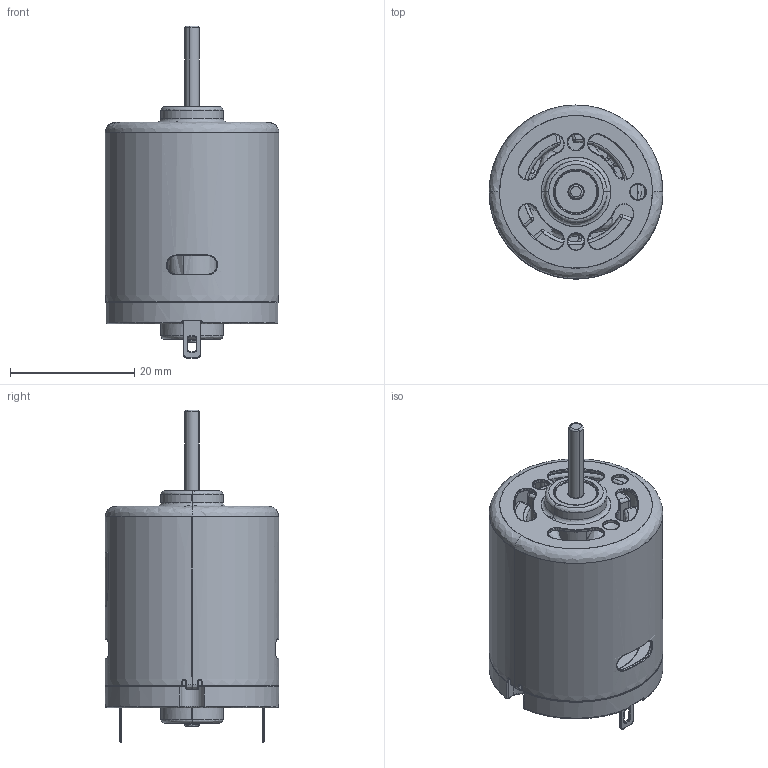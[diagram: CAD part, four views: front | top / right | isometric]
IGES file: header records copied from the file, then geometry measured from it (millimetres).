
Start section: SolidWorks IGES file using analytic representation for surfaces
Global section: file name: C:\Pessoal\Ric\_Desktop XP - RB\CAD\Motor CC\Modelo 01\IGES\DC Motor 12V.IGS; native system: SolidWorks 2007; preprocessor: SolidWorks 2007; author: Casa; date: 120820.192949; units: millimetre
Bounding box: 28 x 28 x 53.5 mm (x, y, z)
Surface area: 16035.8 mm2 (no closed solid volume)
Topology: 0 solids, 0 shells, 1925 faces, 17073 edges, 16974 vertices
Faces by surface type: bspline 1386, revolution 539
